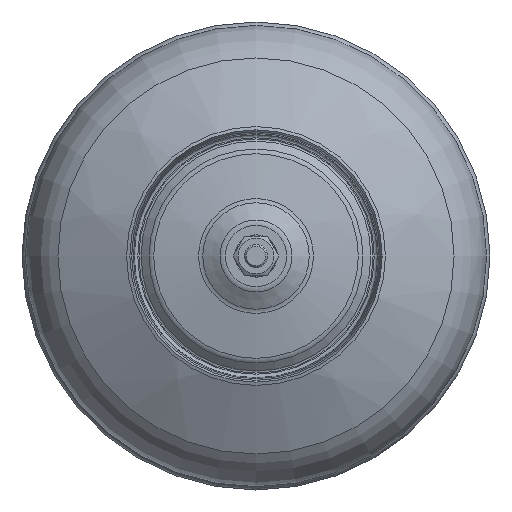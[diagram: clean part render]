
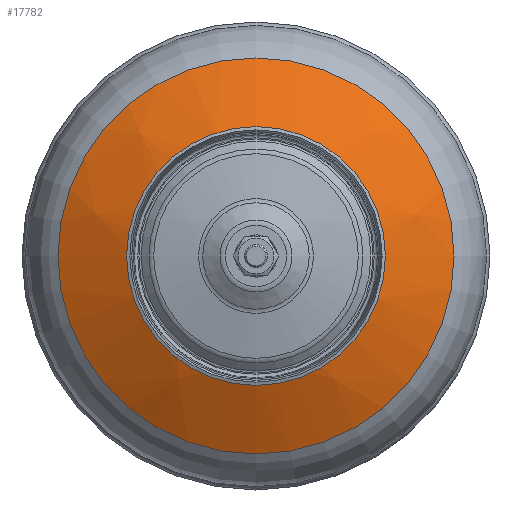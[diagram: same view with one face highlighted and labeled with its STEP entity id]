
A CAD part, front view. The second image highlights one B-rep face of the part: STEP entity #17782.
In plain terms, the highlighted spherical face has radius 159 mm.
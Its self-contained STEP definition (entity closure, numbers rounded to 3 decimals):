
#38=SPHERICAL_SURFACE('',#19103,159.);
#446=FACE_BOUND('',#3008,.T.);
#555=CIRCLE('',#17915,51.862);
#849=CIRCLE('',#19102,85.047);
#1928=FACE_OUTER_BOUND('',#3007,.T.);
#3007=EDGE_LOOP('',(#16085));
#3008=EDGE_LOOP('',(#16086));
#6693=VERTEX_POINT('',#23449);
#8340=VERTEX_POINT('',#37070);
#8490=EDGE_CURVE('',#6693,#6693,#555,.T.);
#10954=EDGE_CURVE('',#8340,#8340,#849,.T.);
#16085=ORIENTED_EDGE('',*,*,#10954,.T.);
#16086=ORIENTED_EDGE('',*,*,#8490,.T.);
#17782=ADVANCED_FACE('',(#1928,#446),#38,.T.);
#17915=AXIS2_PLACEMENT_3D('',#23450,#19393,#19394);
#19102=AXIS2_PLACEMENT_3D('',#37071,#22960,#22961);
#19103=AXIS2_PLACEMENT_3D('',#37072,#22962,#22963);
#19393=DIRECTION('center_axis',(0.,1.,0.));
#19394=DIRECTION('ref_axis',(0.,0.,1.));
#22960=DIRECTION('center_axis',(0.,-1.,0.));
#22961=DIRECTION('ref_axis',(1.,0.,0.));
#22962=DIRECTION('center_axis',(0.,0.,
1.));
#22963=DIRECTION('ref_axis',(-1.,0.,0.));
#23449=CARTESIAN_POINT('',(-51.862,-158.982,0.));
#23450=CARTESIAN_POINT('Origin',(0.,-158.982,0.));
#37070=CARTESIAN_POINT('',(85.047,-143.021,0.));
#37071=CARTESIAN_POINT('Origin',(0.,-143.021,
0.));
#37072=CARTESIAN_POINT('Origin',(0.,-8.678,
0.));
